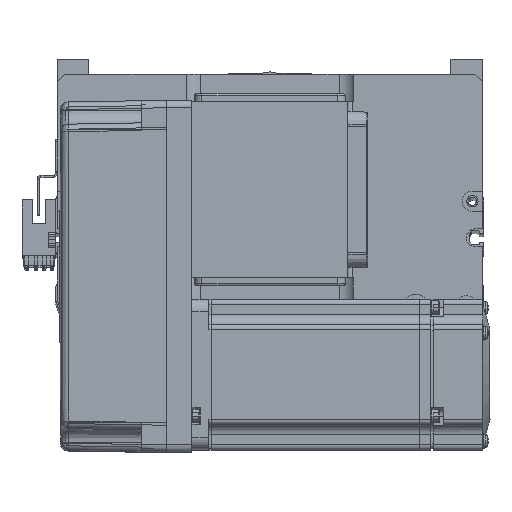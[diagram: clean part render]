
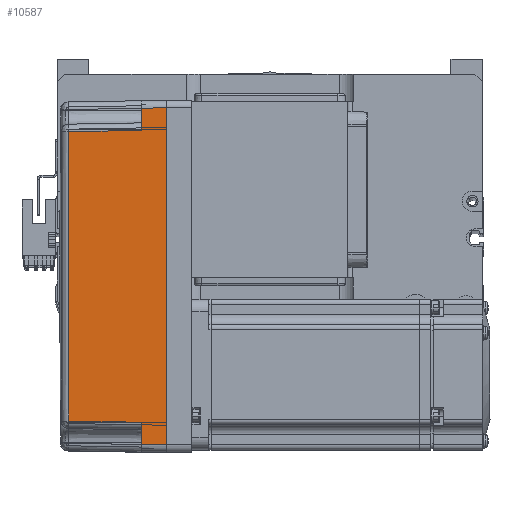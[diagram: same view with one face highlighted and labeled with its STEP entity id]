
A CAD part, top view. The second image highlights one B-rep face of the part: STEP entity #10587.
In plain terms, the highlighted planar face has unit normal (-0.018, 0, 1) as drawn and (0, -1, 0.017) by its records, which use the part's own axes.
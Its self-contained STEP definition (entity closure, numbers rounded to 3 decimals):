
#486 = FACE_OUTER_BOUND ( 'NONE', #31437, .T. ) ;
#2219 = ORIENTED_EDGE ( 'NONE', *, *, #19540, .T. ) ;
#3475 = LINE ( 'NONE', #29113, #27549 ) ;
#4846 = PLANE ( 'NONE',  #61059 ) ;
#5024 = B_SPLINE_CURVE_WITH_KNOTS ( 'NONE', 3,
 ( #23125, #18459, #8919, #8525 ),
 .UNSPECIFIED., .F., .F.,
 ( 4, 4 ),
 ( 0., 1. ),
 .UNSPECIFIED. ) ;
#5185 = EDGE_CURVE ( 'NONE', #46325, #23798, #9295, .T. ) ;
#8525 = CARTESIAN_POINT ( 'NONE',  ( -57.495, -35.32, 38.985 ) ) ;
#8919 = CARTESIAN_POINT ( 'NONE',  ( -19.165, -35.316, 39.181 ) ) ;
#9295 = LINE ( 'NONE', #38231, #33391 ) ;
#10251 = CARTESIAN_POINT ( 'NONE',  ( 70., -36., 0. ) ) ;
#10587 = ADVANCED_FACE ( 'NONE', ( #486 ), #4846, .T. ) ;
#11691 = EDGE_CURVE ( 'NONE', #45528, #52366, #48332, .T. ) ;
#12000 = CARTESIAN_POINT ( 'NONE',  ( 67., -36., 0. ) ) ;
#12039 = ORIENTED_EDGE ( 'NONE', *, *, #53130, .F. ) ;
#14497 = DIRECTION ( 'NONE',  ( 0., -1., 0.017 ) ) ;
#15752 = EDGE_CURVE ( 'NONE', #52366, #42777, #3475, .T. ) ;
#17803 = VERTEX_POINT ( 'NONE', #17868 ) ;
#17868 = CARTESIAN_POINT ( 'NONE',  ( 57.495, -35.32, 38.985 ) ) ;
#18459 = CARTESIAN_POINT ( 'NONE',  ( 19.165, -35.316, 39.181 ) ) ;
#18864 = DIRECTION ( 'NONE',  ( -0.017, 0.017, 1. ) ) ;
#19540 = EDGE_CURVE ( 'NONE', #55060, #46325, #61486, .T. ) ;
#20679 = DIRECTION ( 'NONE',  ( -1., 0., 0. ) ) ;
#22127 = DIRECTION ( 'NONE',  ( 0.017, 0.017, 1. ) ) ;
#22136 = CARTESIAN_POINT ( 'NONE',  ( 58., -35.825, 10. ) ) ;
#22529 = VERTEX_POINT ( 'NONE', #44486 ) ;
#23001 = ORIENTED_EDGE ( 'NONE', *, *, #11691, .T. ) ;
#23125 = CARTESIAN_POINT ( 'NONE',  ( 57.495, -35.32, 38.985 ) ) ;
#23691 = LINE ( 'NONE', #30911, #36400 ) ;
#23700 = CARTESIAN_POINT ( 'NONE',  ( -66.826, -35.825, 10. ) ) ;
#23798 = VERTEX_POINT ( 'NONE', #22136 ) ;
#24243 = LINE ( 'NONE', #55544, #61048 ) ;
#27549 = VECTOR ( 'NONE', #57627, 1000. ) ;
#27857 = DIRECTION ( 'NONE',  ( -0.017, -0.017, -1. ) ) ;
#29012 = CARTESIAN_POINT ( 'NONE',  ( 66.826, -35.825, 10. ) ) ;
#29113 = CARTESIAN_POINT ( 'NONE',  ( 70., -35.825, 10. ) ) ;
#29305 = CARTESIAN_POINT ( 'NONE',  ( 0., -36., 0. ) ) ;
#30136 = LINE ( 'NONE', #29305, #45102 ) ;
#30540 = EDGE_CURVE ( 'NONE', #23798, #17803, #24243, .T. ) ;
#30911 = CARTESIAN_POINT ( 'NONE',  ( -66.959, -35.958, 2.39 ) ) ;
#31437 = EDGE_LOOP ( 'NONE', ( #2219, #38351, #43558, #47670, #23001, #43130, #35942, #12039 ) ) ;
#33391 = VECTOR ( 'NONE', #43858, 1000. ) ;
#35512 = VECTOR ( 'NONE', #27857, 1000. ) ;
#35942 = ORIENTED_EDGE ( 'NONE', *, *, #42574, .F. ) ;
#36400 = VECTOR ( 'NONE', #22127, 1000. ) ;
#36804 = DIRECTION ( 'NONE',  ( -0.017, 0.017, 1. ) ) ;
#36919 = EDGE_CURVE ( 'NONE', #17803, #45528, #5024, .T. ) ;
#38231 = CARTESIAN_POINT ( 'NONE',  ( 70., -35.825, 10. ) ) ;
#38351 = ORIENTED_EDGE ( 'NONE', *, *, #5185, .T. ) ;
#42574 = EDGE_CURVE ( 'NONE', #22529, #42777, #23691, .T. ) ;
#42777 = VERTEX_POINT ( 'NONE', #23700 ) ;
#43130 = ORIENTED_EDGE ( 'NONE', *, *, #15752, .T. ) ;
#43558 = ORIENTED_EDGE ( 'NONE', *, *, #30540, .T. ) ;
#43858 = DIRECTION ( 'NONE',  ( -1., 0., 0. ) ) ;
#44486 = CARTESIAN_POINT ( 'NONE',  ( -67., -36., 0. ) ) ;
#45102 = VECTOR ( 'NONE', #20679, 1000. ) ;
#45528 = VERTEX_POINT ( 'NONE', #54644 ) ;
#46325 = VERTEX_POINT ( 'NONE', #29012 ) ;
#47406 = CARTESIAN_POINT ( 'NONE',  ( 67., -36., 0. ) ) ;
#47670 = ORIENTED_EDGE ( 'NONE', *, *, #36919, .T. ) ;
#48163 = DIRECTION ( 'NONE',  ( 0., -0.017, -1. ) ) ;
#48332 = LINE ( 'NONE', #51583, #35512 ) ;
#48715 = VECTOR ( 'NONE', #18864, 1000. ) ;
#51583 = CARTESIAN_POINT ( 'NONE',  ( -57.495, -35.32, 38.985 ) ) ;
#52366 = VERTEX_POINT ( 'NONE', #59264 ) ;
#53130 = EDGE_CURVE ( 'NONE', #55060, #22529, #30136, .T. ) ;
#54644 = CARTESIAN_POINT ( 'NONE',  ( -57.495, -35.32, 38.985 ) ) ;
#55060 = VERTEX_POINT ( 'NONE', #12000 ) ;
#55544 = CARTESIAN_POINT ( 'NONE',  ( 58., -35.825, 10. ) ) ;
#57627 = DIRECTION ( 'NONE',  ( -1., 0., 0. ) ) ;
#59264 = CARTESIAN_POINT ( 'NONE',  ( -58., -35.825, 10. ) ) ;
#61048 = VECTOR ( 'NONE', #36804, 1000. ) ;
#61059 = AXIS2_PLACEMENT_3D ( 'NONE', #10251, #14497, #48163 ) ;
#61486 = LINE ( 'NONE', #47406, #48715 ) ;
